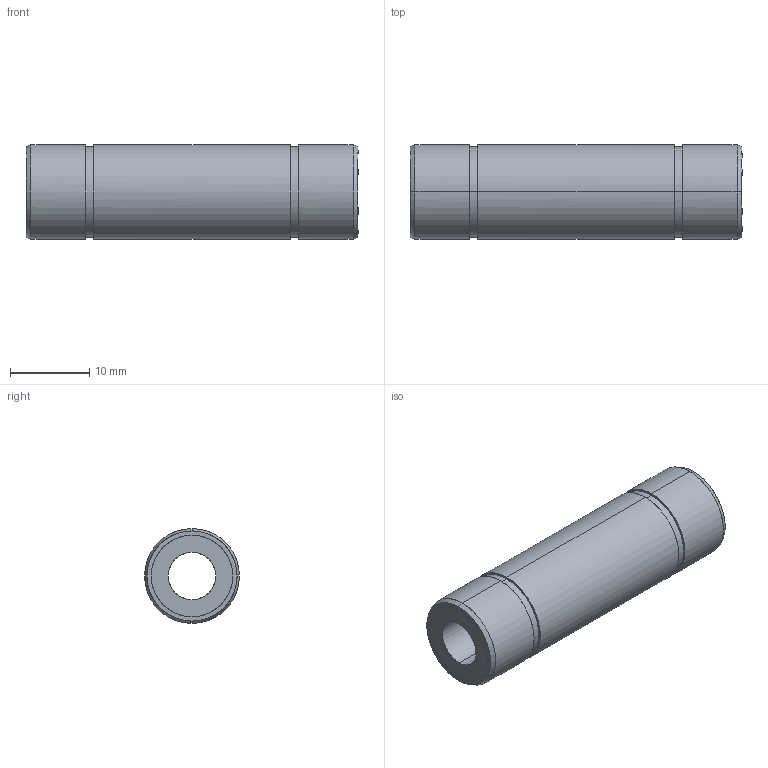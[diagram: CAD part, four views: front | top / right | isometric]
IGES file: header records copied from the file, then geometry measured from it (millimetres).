
Global section: file name: No Iges File Name specified; native system: AutoDesk Inventor R10; preprocessor: AutoDesk Inventor Iges Exporter R10; author: No Author specified; organization: No Organization specified; date: 20101216.152607; units: millimetre
Bounding box: 42 x 12 x 12 mm (x, y, z)
Surface area: 2562.8 mm2 (no closed solid volume)
Topology: 0 solids, 0 shells, 28 faces, 184 edges, 184 vertices
Faces by surface type: bspline 28
